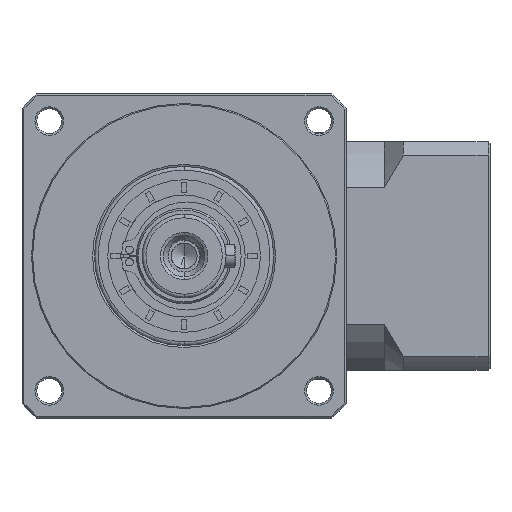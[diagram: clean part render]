
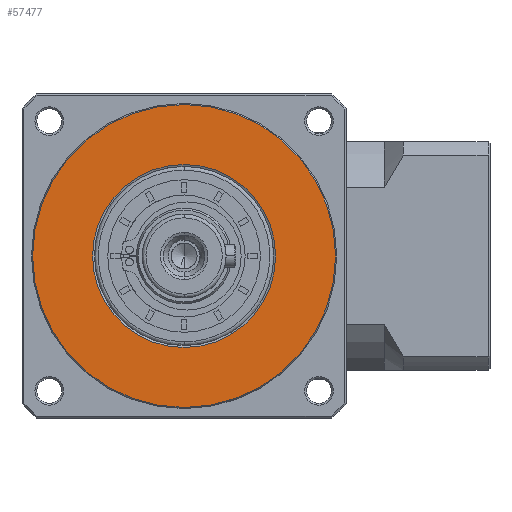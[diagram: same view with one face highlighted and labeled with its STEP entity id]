
A CAD part, left-side view. The second image highlights one B-rep face of the part: STEP entity #57477.
In plain terms, the highlighted planar face has unit normal (-1, 0, 0).
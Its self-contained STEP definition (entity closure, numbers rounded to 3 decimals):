
#748 = EDGE_CURVE ( 'NONE', #175353, #91298, #108756, .T. ) ;
#2718 = ORIENTED_EDGE ( 'NONE', *, *, #79916, .F. ) ;
#4051 = CIRCLE ( 'NONE', #144592, 39.711 ) ;
#4323 = CARTESIAN_POINT ( 'NONE',  ( -154.843, 153.179, 19.294 ) ) ;
#5005 = ORIENTED_EDGE ( 'NONE', *, *, #748, .T. ) ;
#18121 = AXIS2_PLACEMENT_3D ( 'NONE', #158159, #76968, #171774 ) ;
#21458 = CARTESIAN_POINT ( 'NONE',  ( -154.843, 153.179, 43.294 ) ) ;
#23557 = FACE_OUTER_BOUND ( 'NONE', #168250, .T. ) ;
#25597 = CARTESIAN_POINT ( 'NONE',  ( -154.843, 153.179, 43.294 ) ) ;
#27550 = EDGE_LOOP ( 'NONE', ( #5005, #43651 ) ) ;
#35144 = DIRECTION ( 'NONE',  ( 0., 1., 0. ) ) ;
#39359 = DIRECTION ( 'NONE',  ( 0., 0., -1. ) ) ;
#41765 = AXIS2_PLACEMENT_3D ( 'NONE', #21458, #116408, #35144 ) ;
#43651 = ORIENTED_EDGE ( 'NONE', *, *, #88390, .T. ) ;
#44447 = DIRECTION ( 'NONE',  ( 1., 0., 0. ) ) ;
#57477 = ADVANCED_FACE ( 'NONE', ( #23557, #127576 ), #113438, .T. ) ;
#63185 = EDGE_CURVE ( 'NONE', #127039, #138199, #114417, .T. ) ;
#68165 = CARTESIAN_POINT ( 'NONE',  ( -154.843, 192.89, 43.294 ) ) ;
#72411 = AXIS2_PLACEMENT_3D ( 'NONE', #154878, #73707, #168513 ) ;
#73707 = DIRECTION ( 'NONE',  ( -1., 0., 0. ) ) ;
#76968 = DIRECTION ( 'NONE',  ( 1., 0., 0. ) ) ;
#79916 = EDGE_CURVE ( 'NONE', #138199, #127039, #4051, .T. ) ;
#88390 = EDGE_CURVE ( 'NONE', #91298, #175353, #91802, .T. ) ;
#91298 = VERTEX_POINT ( 'NONE', #98894 ) ;
#91802 = CIRCLE ( 'NONE', #18121, 24. ) ;
#98894 = CARTESIAN_POINT ( 'NONE',  ( -154.843, 153.179, 67.294 ) ) ;
#99595 = CARTESIAN_POINT ( 'NONE',  ( -154.843, 113.467, 43.294 ) ) ;
#103670 = AXIS2_PLACEMENT_3D ( 'NONE', #25597, #120556, #39359 ) ;
#108756 = CIRCLE ( 'NONE', #103670, 24. ) ;
#113438 = PLANE ( 'NONE',  #72411 ) ;
#114417 = CIRCLE ( 'NONE', #41765, 39.711 ) ;
#116408 = DIRECTION ( 'NONE',  ( 1., 0., 0. ) ) ;
#120556 = DIRECTION ( 'NONE',  ( 1., 0., 0. ) ) ;
#125633 = CARTESIAN_POINT ( 'NONE',  ( -154.843, 153.179, 43.294 ) ) ;
#127039 = VERTEX_POINT ( 'NONE', #68165 ) ;
#127576 = FACE_BOUND ( 'NONE', #27550, .T. ) ;
#138199 = VERTEX_POINT ( 'NONE', #99595 ) ;
#139189 = DIRECTION ( 'NONE',  ( 0., 1., 0. ) ) ;
#144592 = AXIS2_PLACEMENT_3D ( 'NONE', #125633, #44447, #139189 ) ;
#154878 = CARTESIAN_POINT ( 'NONE',  ( -154.843, 153.179, 43.294 ) ) ;
#158159 = CARTESIAN_POINT ( 'NONE',  ( -154.843, 153.179, 43.294 ) ) ;
#168250 = EDGE_LOOP ( 'NONE', ( #171692, #2718 ) ) ;
#168513 = DIRECTION ( 'NONE',  ( 0., 0., -1. ) ) ;
#171692 = ORIENTED_EDGE ( 'NONE', *, *, #63185, .F. ) ;
#171774 = DIRECTION ( 'NONE',  ( 0., 0., -1. ) ) ;
#175353 = VERTEX_POINT ( 'NONE', #4323 ) ;
